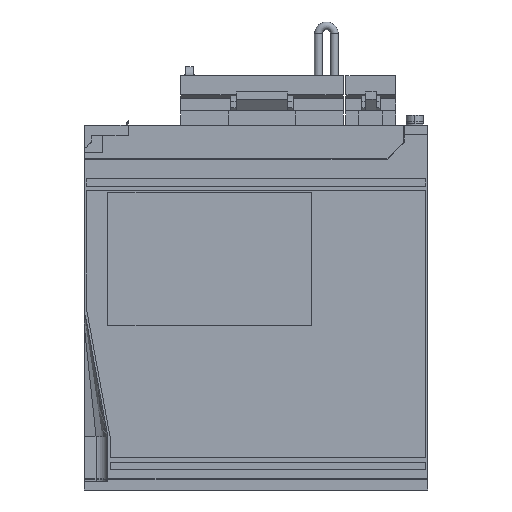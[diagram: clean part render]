
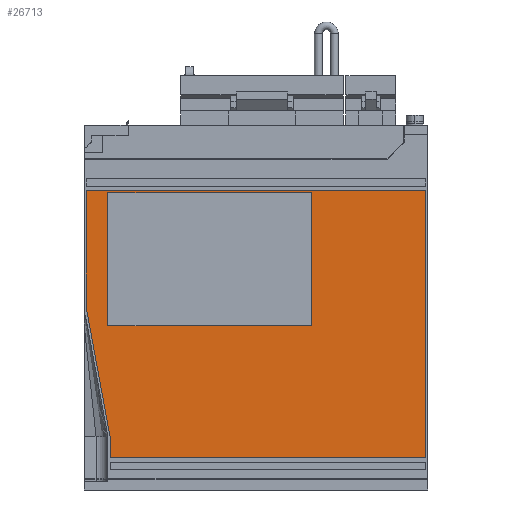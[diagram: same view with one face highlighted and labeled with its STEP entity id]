
A CAD part, left-side view. The second image highlights one B-rep face of the part: STEP entity #26713.
In plain terms, the highlighted planar face has unit normal (-1, 0, 0).
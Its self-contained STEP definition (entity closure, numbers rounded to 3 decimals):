
#26566 = EDGE_CURVE ( 'NONE', #26568, #26632, #52431, .T. ) ;
#26568 = VERTEX_POINT ( 'NONE', #52427 ) ;
#26580 = VERTEX_POINT ( 'NONE', #52521 ) ;
#26585 = EDGE_CURVE ( 'NONE', #26586, #26580, #52503, .T. ) ;
#26586 = VERTEX_POINT ( 'NONE', #52495 ) ;
#26613 = EDGE_CURVE ( 'NONE', #26614, #26568, #52683, .T. ) ;
#26614 = VERTEX_POINT ( 'NONE', #52674 ) ;
#26630 = EDGE_CURVE ( 'NONE', #26632, #26586, #52768, .T. ) ;
#26632 = VERTEX_POINT ( 'NONE', #52762 ) ;
#26640 = EDGE_CURVE ( 'NONE', #26642, #26721, #52719, .T. ) ;
#26642 = VERTEX_POINT ( 'NONE', #52839 ) ;
#26644 = ORIENTED_EDGE ( 'NONE', *, *, #26646, .F. ) ;
#26646 = EDGE_CURVE ( 'NONE', #26648, #26642, #52835, .T. ) ;
#26648 = VERTEX_POINT ( 'NONE', #52820 ) ;
#26651 = ORIENTED_EDGE ( 'NONE', *, *, #26654, .F. ) ;
#26654 = EDGE_CURVE ( 'NONE', #26722, #26648, #52809, .T. ) ;
#26660 = EDGE_CURVE ( 'NONE', #26662, #26614, #52788, .T. ) ;
#26662 = VERTEX_POINT ( 'NONE', #52783 ) ;
#26679 = EDGE_CURVE ( 'NONE', #26580, #26662, #52864, .T. ) ;
#26683 = EDGE_LOOP ( 'NONE', ( #26685, #26688, #26690, #26692, #26695, #26697 ) ) ;
#26685 = ORIENTED_EDGE ( 'NONE', *, *, #26585, .T. ) ;
#26688 = ORIENTED_EDGE ( 'NONE', *, *, #26679, .T. ) ;
#26690 = ORIENTED_EDGE ( 'NONE', *, *, #26660, .T. ) ;
#26692 = ORIENTED_EDGE ( 'NONE', *, *, #26613, .T. ) ;
#26695 = ORIENTED_EDGE ( 'NONE', *, *, #26566, .T. ) ;
#26697 = ORIENTED_EDGE ( 'NONE', *, *, #26630, .T. ) ;
#26713 = ADVANCED_FACE ( 'NONE', ( #53035, #53033 ), #53030, .T. ) ;
#26715 = EDGE_LOOP ( 'NONE', ( #26717, #26724, #26644, #26651 ) ) ;
#26717 = ORIENTED_EDGE ( 'NONE', *, *, #26719, .F. ) ;
#26719 = EDGE_CURVE ( 'NONE', #26721, #26722, #53007, .T. ) ;
#26721 = VERTEX_POINT ( 'NONE', #53002 ) ;
#26722 = VERTEX_POINT ( 'NONE', #52999 ) ;
#26724 = ORIENTED_EDGE ( 'NONE', *, *, #26640, .F. ) ;
#52427 = CARTESIAN_POINT ( 'NONE',  ( -4.7, -7., 15. ) ) ;
#52428 = DIRECTION ( 'NONE',  ( 0., -1., 0. ) ) ;
#52429 = VECTOR ( 'NONE', #52428, 1000. ) ;
#52430 = CARTESIAN_POINT ( 'NONE',  ( -4.7, -7., 15. ) ) ;
#52431 = LINE ( 'NONE', #52430, #52429 ) ;
#52495 = CARTESIAN_POINT ( 'NONE',  ( -4.7, -154., 139.5 ) ) ;
#52498 = DIRECTION ( 'NONE',  ( 0., 1., 0. ) ) ;
#52499 = VECTOR ( 'NONE', #52498, 1000. ) ;
#52501 = CARTESIAN_POINT ( 'NONE',  ( -4.7, 4., 139.5 ) ) ;
#52503 = LINE ( 'NONE', #52501, #52499 ) ;
#52521 = CARTESIAN_POINT ( 'NONE',  ( -4.7, 4., 139.5 ) ) ;
#52674 = CARTESIAN_POINT ( 'NONE',  ( -4.7, -7., 24.891 ) ) ;
#52677 = DIRECTION ( 'NONE',  ( 0., 0., -1. ) ) ;
#52679 = VECTOR ( 'NONE', #52677, 1000. ) ;
#52681 = CARTESIAN_POINT ( 'NONE',  ( -4.7, -7., 24.891 ) ) ;
#52683 = LINE ( 'NONE', #52681, #52679 ) ;
#52715 = DIRECTION ( 'NONE',  ( 0., 0., -1. ) ) ;
#52716 = VECTOR ( 'NONE', #52715, 1000. ) ;
#52717 = CARTESIAN_POINT ( 'NONE',  ( -4.7, -6., 139.5 ) ) ;
#52719 = LINE ( 'NONE', #52717, #52716 ) ;
#52762 = CARTESIAN_POINT ( 'NONE',  ( -4.7, -154., 15. ) ) ;
#52763 = DIRECTION ( 'NONE',  ( 0., 0., 1. ) ) ;
#52764 = VECTOR ( 'NONE', #52763, 1000. ) ;
#52766 = CARTESIAN_POINT ( 'NONE',  ( -4.7, -154., 15. ) ) ;
#52768 = LINE ( 'NONE', #52766, #52764 ) ;
#52783 = CARTESIAN_POINT ( 'NONE',  ( -4.7, 4., 84.683 ) ) ;
#52784 = DIRECTION ( 'NONE',  ( 0., -0.181, -0.983 ) ) ;
#52785 = VECTOR ( 'NONE', #52784, 1000. ) ;
#52787 = CARTESIAN_POINT ( 'NONE',  ( -4.7, 4., 84.683 ) ) ;
#52788 = LINE ( 'NONE', #52787, #52785 ) ;
#52805 = DIRECTION ( 'NONE',  ( 0., 0., 1. ) ) ;
#52807 = VECTOR ( 'NONE', #52805, 1000. ) ;
#52808 = CARTESIAN_POINT ( 'NONE',  ( -4.7, -101., 139.5 ) ) ;
#52809 = LINE ( 'NONE', #52808, #52807 ) ;
#52820 = CARTESIAN_POINT ( 'NONE',  ( -4.7, -101., 138.5 ) ) ;
#52832 = DIRECTION ( 'NONE',  ( 0., 1., 0. ) ) ;
#52833 = VECTOR ( 'NONE', #52832, 1000. ) ;
#52834 = CARTESIAN_POINT ( 'NONE',  ( -4.7, -154., 138.5 ) ) ;
#52835 = LINE ( 'NONE', #52834, #52833 ) ;
#52839 = CARTESIAN_POINT ( 'NONE',  ( -4.7, -6., 138.5 ) ) ;
#52861 = DIRECTION ( 'NONE',  ( 0., 0., -1. ) ) ;
#52862 = VECTOR ( 'NONE', #52861, 1000. ) ;
#52863 = CARTESIAN_POINT ( 'NONE',  ( -4.7, 4., 84.683 ) ) ;
#52864 = LINE ( 'NONE', #52863, #52862 ) ;
#52999 = CARTESIAN_POINT ( 'NONE',  ( -4.7, -101., 76.5 ) ) ;
#53002 = CARTESIAN_POINT ( 'NONE',  ( -4.7, -6., 76.5 ) ) ;
#53004 = DIRECTION ( 'NONE',  ( 0., -1., 0. ) ) ;
#53005 = VECTOR ( 'NONE', #53004, 1000. ) ;
#53006 = CARTESIAN_POINT ( 'NONE',  ( -4.7, -154., 76.5 ) ) ;
#53007 = LINE ( 'NONE', #53006, #53005 ) ;
#53024 = DIRECTION ( 'NONE',  ( 0., -1., 0. ) ) ;
#53025 = DIRECTION ( 'NONE',  ( -1., 0., 0. ) ) ;
#53026 = CARTESIAN_POINT ( 'NONE',  ( -4.7, -154., 139.5 ) ) ;
#53028 = AXIS2_PLACEMENT_3D ( 'NONE', #53026, #53025, #53024 ) ;
#53030 = PLANE ( 'NONE',  #53028 ) ;
#53033 = FACE_OUTER_BOUND ( 'NONE', #26683, .T. ) ;
#53035 = FACE_BOUND ( 'NONE', #26715, .T. ) ;
